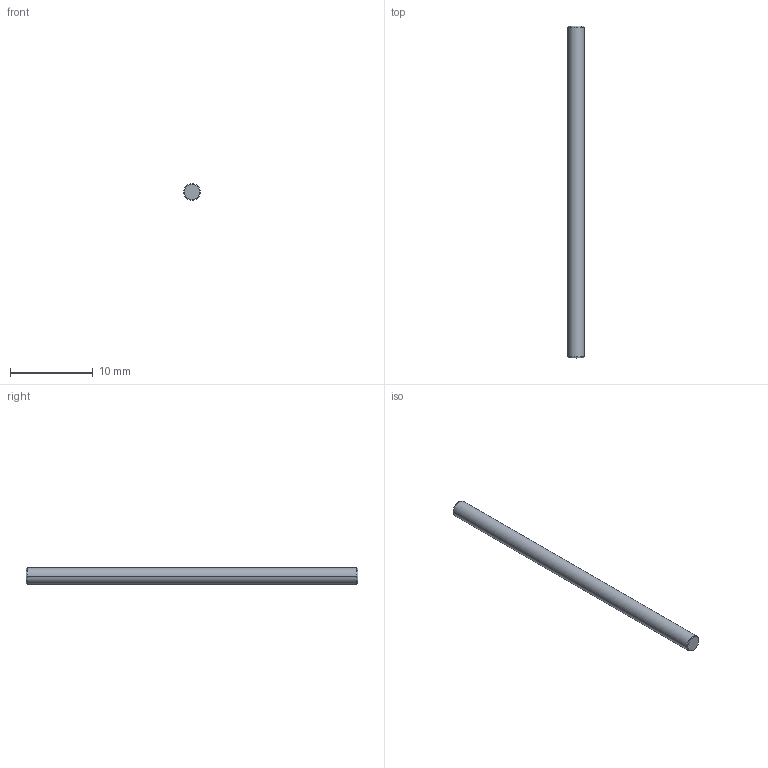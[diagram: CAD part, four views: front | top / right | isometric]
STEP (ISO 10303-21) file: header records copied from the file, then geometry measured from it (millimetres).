
FILE_DESCRIPTION((''),'2;1');
FILE_NAME('2MM00','2024-04-23T11:37:46',('qinghui.yi'),(''),'CREO PARAMETRIC BY PTC INC, 2019164','CREO PARAMETRIC BY PTC INC, 2019164','');
FILE_SCHEMA(('CONFIG_CONTROL_DESIGN','SHAPE_APPEARANCE_LAYERS_GROUPS'));
Length unit declared in the file: millimetre
Products named in the file (1): 2MM00
Bounding box: 2 x 40 x 2 mm (x, y, z)
Volume: 125.6 mm3; surface area: 257 mm2
Topology: 1 solids, 1 shells, 8 faces, 17 edges, 14 vertices
Faces by surface type: cone 4, plane 2, cylinder 2
Entity records: 593 total; most frequent: COLOUR_RGB 312, DIRECTION 43, CARTESIAN_POINT 34, ORIENTED_EDGE 28, AXIS2_PLACEMENT_3D 17, EDGE_CURVE 14, VECTOR 9, LINE 9
